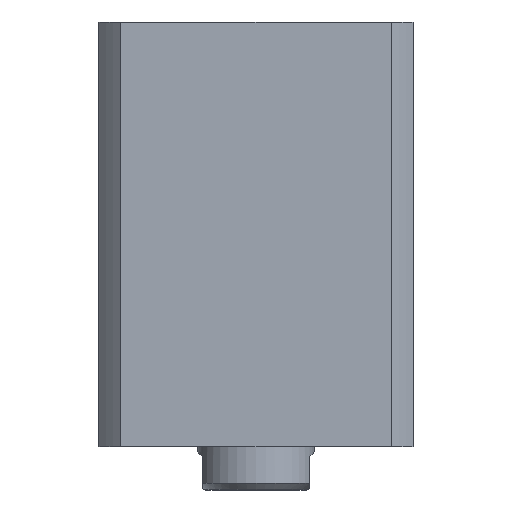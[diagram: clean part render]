
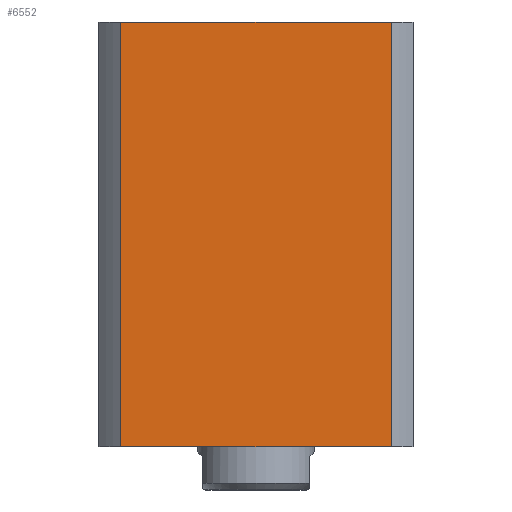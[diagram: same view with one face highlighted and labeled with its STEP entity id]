
A CAD part, front view. The second image highlights one B-rep face of the part: STEP entity #6552.
In plain terms, the highlighted planar face has unit normal (0, -1, 0) as drawn and (0, 1, 0) by its records, which use the part's own axes.
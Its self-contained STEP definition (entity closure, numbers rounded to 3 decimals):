
#21 = EDGE_CURVE ( 'NONE', #5373, #6677, #358, .T. ) ;
#358 = LINE ( 'NONE', #3039, #14549 ) ;
#1867 = DIRECTION ( 'NONE',  ( 0., 0., 1. ) ) ;
#2135 = EDGE_CURVE ( 'NONE', #4659, #5373, #7914, .T. ) ;
#3039 = CARTESIAN_POINT ( 'NONE',  ( -40.435, 47., -2873. ) ) ;
#3771 = CARTESIAN_POINT ( 'NONE',  ( -47., 47., 0. ) ) ;
#3982 = CARTESIAN_POINT ( 'NONE',  ( 40.435, 47., 0. ) ) ;
#4033 = CARTESIAN_POINT ( 'NONE',  ( -40.435, 47., 0. ) ) ;
#4264 = VECTOR ( 'NONE', #6689, 1000. ) ;
#4659 = VERTEX_POINT ( 'NONE', #6675 ) ;
#5373 = VERTEX_POINT ( 'NONE', #5650 ) ;
#5492 = DIRECTION ( 'NONE',  ( 0., 0., -1. ) ) ;
#5650 = CARTESIAN_POINT ( 'NONE',  ( -40.435, 47., 127. ) ) ;
#6392 = EDGE_LOOP ( 'NONE', ( #17298, #12785, #16831, #12133 ) ) ;
#6552 = ADVANCED_FACE ( 'NONE', ( #10680 ), #6555, .F. ) ;
#6555 = PLANE ( 'NONE',  #13022 ) ;
#6675 = CARTESIAN_POINT ( 'NONE',  ( 40.435, 47., 127. ) ) ;
#6677 = VERTEX_POINT ( 'NONE', #4033 ) ;
#6689 = DIRECTION ( 'NONE',  ( -1., 0., 0. ) ) ;
#7721 = CARTESIAN_POINT ( 'NONE',  ( -47., 47., 127. ) ) ;
#7914 = LINE ( 'NONE', #7721, #4264 ) ;
#7930 = DIRECTION ( 'NONE',  ( 0., 0., -1. ) ) ;
#8507 = VECTOR ( 'NONE', #1867, 1000. ) ;
#9360 = EDGE_CURVE ( 'NONE', #11868, #4659, #12185, .T. ) ;
#10680 = FACE_OUTER_BOUND ( 'NONE', #6392, .T. ) ;
#10745 = VECTOR ( 'NONE', #12000, 1000. ) ;
#11177 = LINE ( 'NONE', #3771, #10745 ) ;
#11473 = CARTESIAN_POINT ( 'NONE',  ( 40.435, 47., -2873. ) ) ;
#11868 = VERTEX_POINT ( 'NONE', #3982 ) ;
#12000 = DIRECTION ( 'NONE',  ( -1., 0., 0. ) ) ;
#12133 = ORIENTED_EDGE ( 'NONE', *, *, #2135, .F. ) ;
#12185 = LINE ( 'NONE', #11473, #8507 ) ;
#12731 = EDGE_CURVE ( 'NONE', #11868, #6677, #11177, .T. ) ;
#12785 = ORIENTED_EDGE ( 'NONE', *, *, #12731, .T. ) ;
#13022 = AXIS2_PLACEMENT_3D ( 'NONE', #16028, #16152, #7930 ) ;
#14549 = VECTOR ( 'NONE', #5492, 1000. ) ;
#16028 = CARTESIAN_POINT ( 'NONE',  ( -47., 47., 127. ) ) ;
#16152 = DIRECTION ( 'NONE',  ( 0., -1., 0. ) ) ;
#16831 = ORIENTED_EDGE ( 'NONE', *, *, #21, .F. ) ;
#17298 = ORIENTED_EDGE ( 'NONE', *, *, #9360, .F. ) ;
